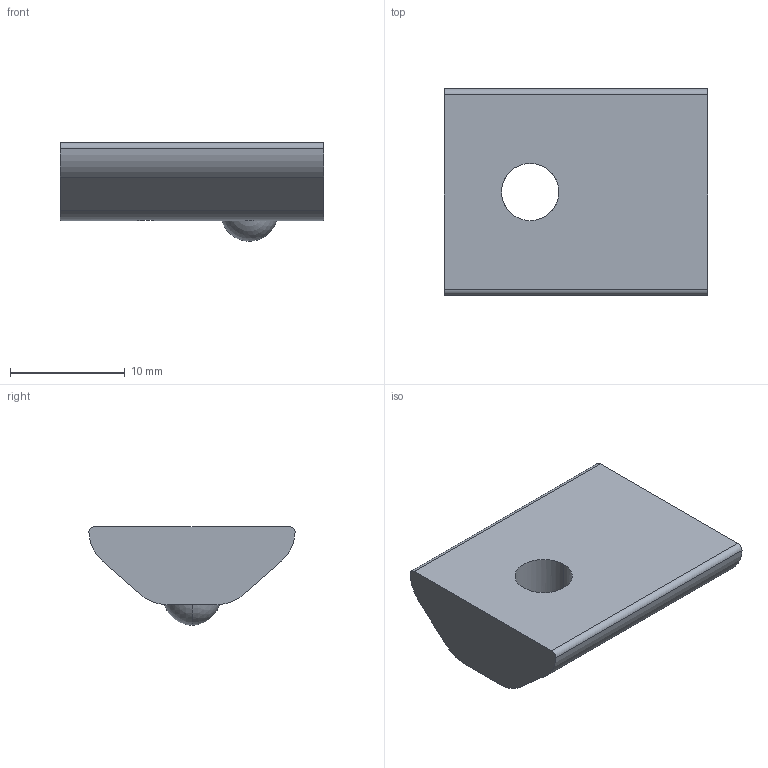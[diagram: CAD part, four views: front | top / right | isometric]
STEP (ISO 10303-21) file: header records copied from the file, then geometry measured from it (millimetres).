
FILE_DESCRIPTION (( 'STEP AP203' ), '1' );
FILE_NAME ('0108NSM6S.STEP', '2024-03-05T08:58:42', ( 'Windows-Benutzer' ), ( '' ), 'SwSTEP 2.0', 'SolidWorks 2023', '' );
FILE_SCHEMA (( 'CONFIG_CONTROL_DESIGN' ));
Length unit declared in the file: millimetre
Products named in the file (1): 0108NSM6S
Bounding box: 23 x 18 x 8.6 mm (x, y, z)
Volume: 2061 mm3; surface area: 1245 mm2
Topology: 1 solids, 1 shells, 18 faces, 52 edges, 35 vertices
Faces by surface type: cylinder 8, plane 8, sphere 2
Entity records: 713 total; most frequent: CARTESIAN_POINT 138, DIRECTION 110, ORIENTED_EDGE 104, EDGE_CURVE 52, AXIS2_PLACEMENT_3D 43, VERTEX_POINT 35, LINE 24, VECTOR 24
